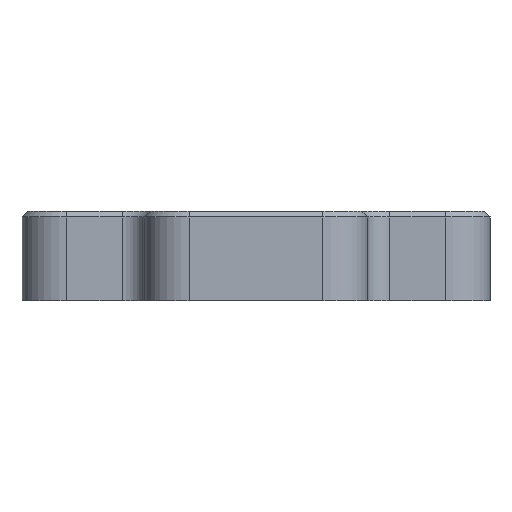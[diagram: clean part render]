
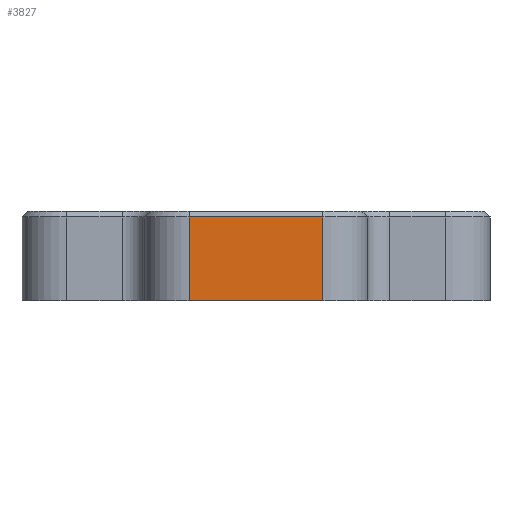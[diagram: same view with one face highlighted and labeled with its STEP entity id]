
A CAD part, left-side view. The second image highlights one B-rep face of the part: STEP entity #3827.
In plain terms, the highlighted planar face has unit normal (-1, 0, 0).
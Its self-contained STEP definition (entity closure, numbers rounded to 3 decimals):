
#359 = AXIS2_PLACEMENT_3D ( 'NONE', #905, #3710, #2033 ) ;
#580 = DIRECTION ( 'NONE',  ( 0., -1., 0. ) ) ;
#586 = EDGE_CURVE ( 'NONE', #3270, #3388, #2461, .T. ) ;
#596 = VECTOR ( 'NONE', #2442, 1000. ) ;
#724 = CARTESIAN_POINT ( 'NONE',  ( -56., 6., 7.5 ) ) ;
#905 = CARTESIAN_POINT ( 'NONE',  ( -56., 6., 8. ) ) ;
#942 = CARTESIAN_POINT ( 'NONE',  ( -56., -6., 7.5 ) ) ;
#1102 = DIRECTION ( 'NONE',  ( 0., 0., -1. ) ) ;
#1120 = ORIENTED_EDGE ( 'NONE', *, *, #2412, .T. ) ;
#1128 = CARTESIAN_POINT ( 'NONE',  ( -56., 6., 0. ) ) ;
#1307 = CARTESIAN_POINT ( 'NONE',  ( -56., 6., 0. ) ) ;
#1368 = VECTOR ( 'NONE', #4851, 1000. ) ;
#1430 = VERTEX_POINT ( 'NONE', #942 ) ;
#1489 = LINE ( 'NONE', #1857, #1368 ) ;
#1756 = CARTESIAN_POINT ( 'NONE',  ( -56., 6., 7.5 ) ) ;
#1795 = FACE_OUTER_BOUND ( 'NONE', #4875, .T. ) ;
#1857 = CARTESIAN_POINT ( 'NONE',  ( -56., -6., 8. ) ) ;
#2033 = DIRECTION ( 'NONE',  ( 0., 0., -1. ) ) ;
#2398 = CARTESIAN_POINT ( 'NONE',  ( -56., -6., 0. ) ) ;
#2412 = EDGE_CURVE ( 'NONE', #3388, #3126, #5036, .T. ) ;
#2442 = DIRECTION ( 'NONE',  ( 0., 1., 0. ) ) ;
#2461 = LINE ( 'NONE', #4909, #2994 ) ;
#2534 = LINE ( 'NONE', #724, #596 ) ;
#2994 = VECTOR ( 'NONE', #1102, 1000. ) ;
#3099 = ORIENTED_EDGE ( 'NONE', *, *, #4478, .F. ) ;
#3126 = VERTEX_POINT ( 'NONE', #2398 ) ;
#3270 = VERTEX_POINT ( 'NONE', #1756 ) ;
#3388 = VERTEX_POINT ( 'NONE', #1307 ) ;
#3422 = PLANE ( 'NONE',  #359 ) ;
#3562 = ORIENTED_EDGE ( 'NONE', *, *, #4114, .T. ) ;
#3710 = DIRECTION ( 'NONE',  ( 1., 0., 0. ) ) ;
#3827 = ADVANCED_FACE ( 'NONE', ( #1795 ), #3422, .F. ) ;
#4114 = EDGE_CURVE ( 'NONE', #1430, #3270, #2534, .T. ) ;
#4407 = ORIENTED_EDGE ( 'NONE', *, *, #586, .T. ) ;
#4478 = EDGE_CURVE ( 'NONE', #1430, #3126, #1489, .T. ) ;
#4851 = DIRECTION ( 'NONE',  ( 0., 0., -1. ) ) ;
#4875 = EDGE_LOOP ( 'NONE', ( #3099, #3562, #4407, #1120 ) ) ;
#4885 = VECTOR ( 'NONE', #580, 1000. ) ;
#4909 = CARTESIAN_POINT ( 'NONE',  ( -56., 6., 8. ) ) ;
#5036 = LINE ( 'NONE', #1128, #4885 ) ;
